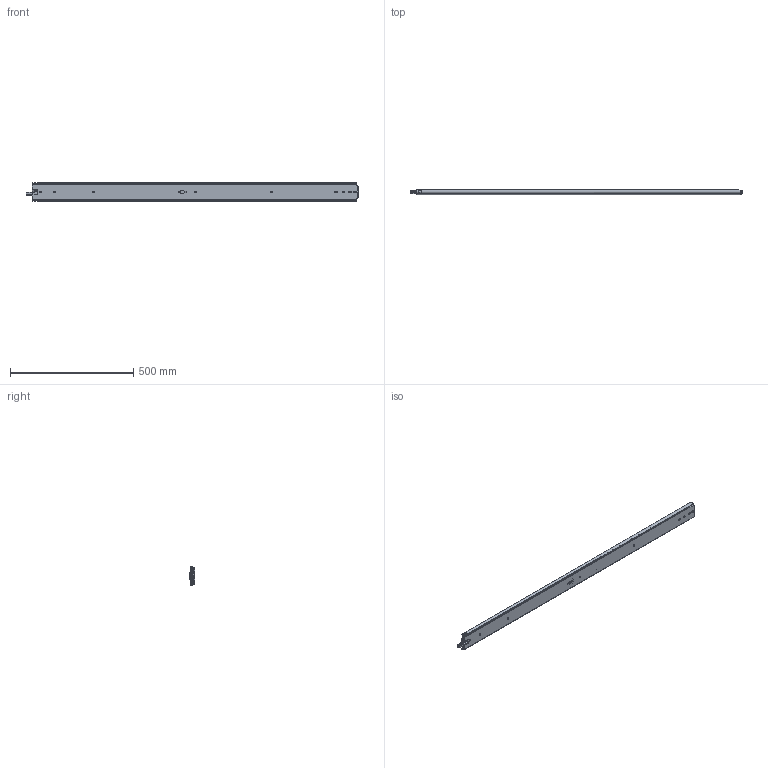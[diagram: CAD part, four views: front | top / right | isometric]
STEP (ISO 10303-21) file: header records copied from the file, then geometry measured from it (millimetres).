
FILE_DESCRIPTION((''),'2;1');
FILE_NAME('DG-76-3S-52ZUO_ASM','2023-05-11T',('jishu015'),(''),'PRO/ENGINEER BY PARAMETRIC TECHNOLOGY CORPORATION, 2010280','PRO/ENGINEER BY PARAMETRIC TECHNOLOGY CORPORATION, 2010280','');
FILE_SCHEMA(('CONFIG_CONTROL_DESIGN'));
Products named in the file (29): KP-76-04WAIKE-1816____________; 1076-WAIKEZIDANJIAO1621_; WAIK16_____________ASM; 1076XIAOZHUTIAO-2251621_; 16____________; 1076XIAOZHUTIAO-1751621__ASM; KP-76-04ZHONGGUI181611; 76CHANGGUIZHONGGUIJIAO1621____; 3X6WODIN16____________; ZHONGGUIBAIKOU16____________; PJ-76-30___________; PJ-76-03___________; 76-XIAOZHUJIA-11___________; GANGZHU-XIAO___________; ZHUJIA-XIAO____________ASM; ZHONGGUI6_____________ASM; KP-76-04NEIGUI1816____________; PJ-76-31___________; DAOGPIAN16____________; 1053-3SBANJ01___________; JIAO-11___________; 76XINSUOKOU___________; PJ-338___________; PJ-356___________; PJ-357___________; PJ-336___________; M4X4___________; NEIGUI16_____________ASM; DG-76-3S-52ZUO_ASM
Assembly tree (102 placements, depth 4):
  DG-76-3S-52ZUO_ASM
    WAIK16_____________ASM
      KP-76-04WAIKE-1816____________
      1076-WAIKEZIDANJIAO1621_  x2
    1076XIAOZHUTIAO-1751621__ASM  x2
      1076XIAOZHUTIAO-2251621_
      16____________
    ZHONGGUI6_____________ASM
      KP-76-04ZHONGGUI181611
      76CHANGGUIZHONGGUIJIAO1621____
      3X6WODIN16____________
      ZHONGGUIBAIKOU16____________
      PJ-76-30___________
      PJ-76-03___________
      ZHUJIA-XIAO____________ASM
        76-XIAOZHUJIA-11___________
        GANGZHU-XIAO___________  x50
    NEIGUI16_____________ASM
      KP-76-04NEIGUI1816____________
      PJ-76-31___________
      DAOGPIAN16____________
      1053-3SBANJ01___________
      JIAO-11___________
      76XINSUOKOU___________
      PJ-338___________
      PJ-356___________
      PJ-357___________
      PJ-336___________
      M4X4___________
Bounding box: 1346.72 x 20.7 x 75.3 mm (x, y, z)
Volume: 874186 mm3; surface area: 842938.8 mm2
Topology: 122 solids, 122 shells, 2828 faces, 8670 edges, 5463 vertices
Faces by surface type: plane 1464, cylinder 1034, sphere 203, bspline 60, cone 28, extrusion 23, torus 16
Entity records: 89790 total; most frequent: CARTESIAN_POINT 23673, ORIENTED_EDGE 14560, DIRECTION 13044, EDGE_CURVE 7280, VERTEX_POINT 4743, AXIS2_PLACEMENT_3D 4514, VECTOR 4016, LINE 3993
